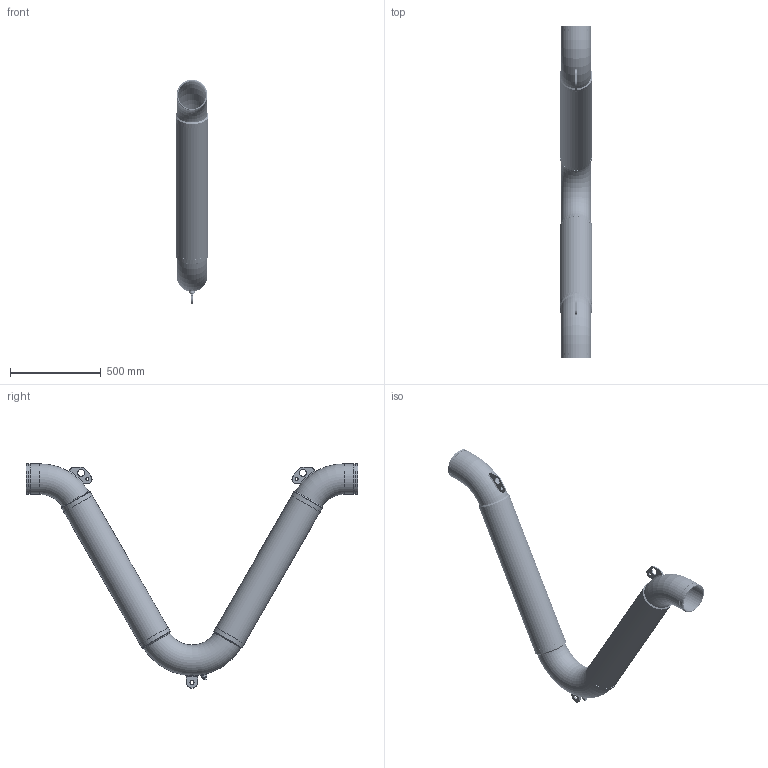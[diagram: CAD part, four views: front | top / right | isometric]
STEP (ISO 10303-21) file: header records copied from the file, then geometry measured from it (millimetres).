
FILE_DESCRIPTION((''),'2;1');
FILE_NAME('\\Mleuckt7400\cad-proe_solids2\WEBSITE FILES 05.22.13\STEP\VGWN\VGWN-6.stp','2013-07-23T10:41:27',('rramoutar'),(''),'Autodesk Inventor 2012','Autodesk Inventor 2012','');
FILE_SCHEMA(('AUTOMOTIVE_DESIGN { 1 0 10303 214 1 1 1 1 }'));
Length unit declared in the file: inch
Products named in the file (12): A-30592-3 VGN 6 INCH.iam (LevelofDetail1); A-30592-3 VGN 6 INCH.iam (LevelofDetail1)_Welds; A-30592-3 ELBOW 120 DEG FOR 6 INCH VGN; A-28696-2 SUPORT CLIP VGN,VFL 6INCH & 8INCH; A-30713 A36 STEEL COUPLING 0.5 inch; A-30713 A36 STEEL PLUG 0.5 inch; A-30592-3 VGN 6.0 INCH NIPPLE; A-30592-3 ELBOW 60 DEG FOR 6 INCH VGN; A-29781-7 6.0 inch braid collar; A-30592-3 VGN 6 INCH BRAID; A-29781-7 VGN 6.0 inch STAINLESS STEEL HOSE; A-29799-1 CLIP VGN,VFL 5 TO 12 INCH
Assembly tree (19 placements, depth 2):
  A-30592-3 VGN 6 INCH.iam (LevelofDetail1)
    A-30592-3 VGN 6 INCH.iam (LevelofDetail1)_Welds
    A-30592-3 ELBOW 120 DEG FOR 6 INCH VGN
    A-28696-2 SUPORT CLIP VGN,VFL 6INCH & 8INCH
    A-30713 A36 STEEL COUPLING 0.5 inch
    A-30713 A36 STEEL PLUG 0.5 inch
    A-30592-3 VGN 6.0 INCH NIPPLE  x2
    A-30592-3 ELBOW 60 DEG FOR 6 INCH VGN  x2
    A-29781-7 6.0 inch braid collar  x4
    A-30592-3 VGN 6 INCH BRAID  x2
    A-29781-7 VGN 6.0 inch STAINLESS STEEL HOSE  x2
    A-29799-1 CLIP VGN,VFL 5 TO 12 INCH  x2
Bounding box: 181.68 x 1828.8 x 1236.66 mm (x, y, z)
Volume: 5857519.5 mm3; surface area: 8362656 mm2
Topology: 26 solids, 26 shells, 1321 faces, 2066 edges, 1378 vertices
Faces by surface type: plane 660, torus 602, cylinder 40, bspline 15, cone 4
Full cylindrical faces by diameter (mm): 15.875 x2, 18.256 x1, 21.336 x2, 22.225 x1, 28.575 x3, 38.1 x2, 154.051 x2, 163.957 x2, 168.275 x4, 179.07 x6, 180.086 x2, 181.451 x4
Entity records: 22243 total; most frequent: CARTESIAN_POINT 9757, DIRECTION 2779, ORIENTED_EDGE 1550, AXIS2_PLACEMENT_3D 1367, EDGE_LOOP 1338, EDGE_CURVE 775, VERTEX_POINT 729, FACE_OUTER_BOUND 693
